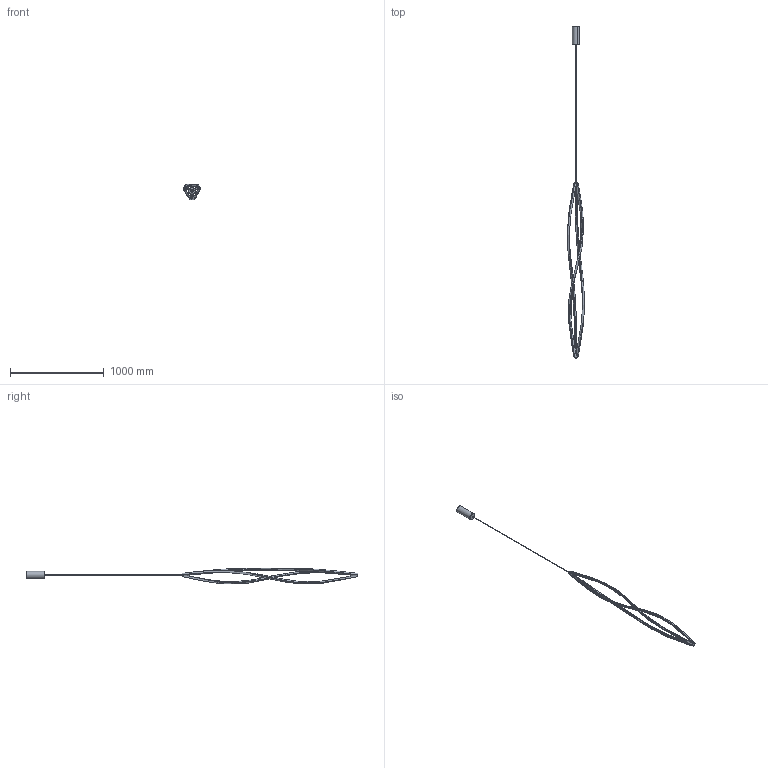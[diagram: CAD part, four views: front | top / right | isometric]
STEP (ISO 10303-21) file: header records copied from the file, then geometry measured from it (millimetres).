
FILE_DESCRIPTION (( 'STEP AP214' ), '1' );
FILE_NAME ('3D_IN_THE_WIND_PENDANT_VERTICAL.STEP', '2014-04-16T15:18:27', ( 'winner' ), ( '' ), 'SwSTEP 2.0', 'SolidWorks 2012', '' );
FILE_SCHEMA (( 'AUTOMOTIVE_DESIGN' ));
Length unit declared in the file: millimetre
Products named in the file (9): 010GIO700250; 010ITW700300; 051ITW700400_sospesa orizzontale ; cavo; 051ITW700300_TESTA; 010TRU700400; 051ITW700300_Sospesa superiore; 051ITW700200; 3D_IN_THE_WIND_PENDANT_VERTICAL
Assembly tree (16 placements, depth 2):
  3D_IN_THE_WIND_PENDANT_VERTICAL
    051ITW700200  x3
    051ITW700300_Sospesa superiore
    010TRU700400  x3
    051ITW700300_TESTA
    cavo
    051ITW700400_sospesa orizzontale   x2
    010ITW700300  x4
    010GIO700250
Bounding box: 180.5 x 3543.95 x 167.72 mm (x, y, z)
Volume: 1009527.6 mm3; surface area: 1081066.9 mm2
Topology: 16 solids, 16 shells, 1111 faces, 3072 edges, 1986 vertices
Faces by surface type: plane 609, bspline 302, cylinder 136, sphere 34, cone 26, torus 4
Entity records: 40594 total; most frequent: CARTESIAN_POINT 21166, ORIENTED_EDGE 4496, DIRECTION 3167, EDGE_CURVE 2248, VERTEX_POINT 1456, VECTOR 1409, LINE 1409, AXIS2_PLACEMENT_3D 879
